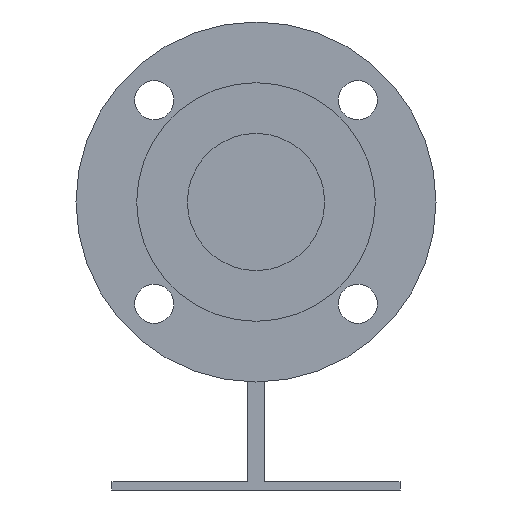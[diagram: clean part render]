
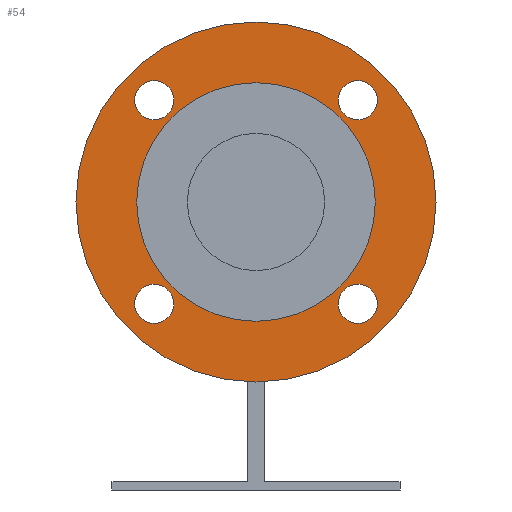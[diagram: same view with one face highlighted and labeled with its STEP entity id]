
A CAD part, left-side view. The second image highlights one B-rep face of the part: STEP entity #54.
In plain terms, the highlighted planar face has unit normal (-1, 0, 0).
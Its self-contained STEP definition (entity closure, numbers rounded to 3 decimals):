
#54=ADVANCED_FACE('',(#268,#269,#270,#271,#272,#273),#267,.T.);
#267=PLANE('',#1005);
#268=FACE_OUTER_BOUND('',#1006,.T.);
#269=FACE_BOUND('',#1007,.T.);
#270=FACE_BOUND('',#1008,.T.);
#271=FACE_BOUND('',#1009,.T.);
#272=FACE_BOUND('',#1010,.T.);
#273=FACE_BOUND('',#1011,.T.);
#1002=CARTESIAN_POINT('',(-389.,-161.554,-185.));
#1003=DIRECTION('',(-1.,0.,0.));
#1004=DIRECTION('',(0.,0.,1.));
#1005=AXIS2_PLACEMENT_3D('',#1002,#1003,#1004);
#1006=EDGE_LOOP('',(#1421,#1422));
#1007=EDGE_LOOP('',(#1423,#1424));
#1008=EDGE_LOOP('',(#1425,#1426));
#1009=EDGE_LOOP('',(#1427,#1428));
#1010=EDGE_LOOP('',(#1429,#1430));
#1011=EDGE_LOOP('',(#1431,#1432));
#1421=ORIENTED_EDGE('',*,*,#1798,.T.);
#1422=ORIENTED_EDGE('',*,*,#1799,.T.);
#1423=ORIENTED_EDGE('',*,*,#1800,.F.);
#1424=ORIENTED_EDGE('',*,*,#1801,.F.);
#1425=ORIENTED_EDGE('',*,*,#1802,.F.);
#1426=ORIENTED_EDGE('',*,*,#1803,.F.);
#1427=ORIENTED_EDGE('',*,*,#1804,.F.);
#1428=ORIENTED_EDGE('',*,*,#1805,.F.);
#1429=ORIENTED_EDGE('',*,*,#1806,.F.);
#1430=ORIENTED_EDGE('',*,*,#1807,.F.);
#1431=ORIENTED_EDGE('',*,*,#1808,.F.);
#1432=ORIENTED_EDGE('',*,*,#1809,.F.);
#1798=EDGE_CURVE('',#2392,#2393,#2394,.T.);
#1799=EDGE_CURVE('',#2393,#2392,#2400,.T.);
#1800=EDGE_CURVE('',#2406,#2407,#2408,.T.);
#1801=EDGE_CURVE('',#2407,#2406,#2414,.T.);
#1802=EDGE_CURVE('',#2420,#2421,#2422,.T.);
#1803=EDGE_CURVE('',#2421,#2420,#2428,.T.);
#1804=EDGE_CURVE('',#2434,#2435,#2436,.T.);
#1805=EDGE_CURVE('',#2435,#2434,#2442,.T.);
#1806=EDGE_CURVE('',#2448,#2449,#2450,.T.);
#1807=EDGE_CURVE('',#2449,#2448,#2456,.T.);
#1808=EDGE_CURVE('',#2462,#2463,#2464,.T.);
#1809=EDGE_CURVE('',#2463,#2462,#2470,.T.);
#2392=VERTEX_POINT('',#3510);
#2393=VERTEX_POINT('',#3511);
#2394=CIRCLE('',#3515,87.5);
#2400=CIRCLE('',#3519,87.5);
#2406=VERTEX_POINT('',#3520);
#2407=VERTEX_POINT('',#3521);
#2408=CIRCLE('',#3525,9.5);
#2414=CIRCLE('',#3529,9.5);
#2420=VERTEX_POINT('',#3530);
#2421=VERTEX_POINT('',#3531);
#2422=CIRCLE('',#3535,9.5);
#2428=CIRCLE('',#3539,9.5);
#2434=VERTEX_POINT('',#3540);
#2435=VERTEX_POINT('',#3541);
#2436=CIRCLE('',#3545,9.5);
#2442=CIRCLE('',#3549,9.5);
#2448=VERTEX_POINT('',#3550);
#2449=VERTEX_POINT('',#3551);
#2450=CIRCLE('',#3555,58.);
#2456=CIRCLE('',#3559,58.);
#2462=VERTEX_POINT('',#3560);
#2463=VERTEX_POINT('',#3561);
#2464=CIRCLE('',#3565,9.5);
#2470=CIRCLE('',#3569,9.5);
#3510=CARTESIAN_POINT('',(-389.,0.,87.5));
#3511=CARTESIAN_POINT('',(-389.,0.,-87.5));
#3512=CARTESIAN_POINT('',(-389.,0.,0.));
#3513=DIRECTION('',(-1.,0.,0.));
#3514=DIRECTION('',(0.,0.,1.));
#3515=AXIS2_PLACEMENT_3D('',#3512,#3513,#3514);
#3516=CARTESIAN_POINT('',(-389.,0.,0.));
#3517=DIRECTION('',(-1.,0.,0.));
#3518=DIRECTION('',(0.,0.,1.));
#3519=AXIS2_PLACEMENT_3D('',#3516,#3517,#3518);
#3520=CARTESIAN_POINT('',(-389.,-49.498,58.998));
#3521=CARTESIAN_POINT('',(-389.,-49.498,39.998));
#3522=CARTESIAN_POINT('',(-389.,-49.498,49.498));
#3523=DIRECTION('',(-1.,0.,0.));
#3524=DIRECTION('',(0.,0.,-1.));
#3525=AXIS2_PLACEMENT_3D('',#3522,#3523,#3524);
#3526=CARTESIAN_POINT('',(-389.,-49.498,49.498));
#3527=DIRECTION('',(-1.,0.,0.));
#3528=DIRECTION('',(0.,0.,-1.));
#3529=AXIS2_PLACEMENT_3D('',#3526,#3527,#3528);
#3530=CARTESIAN_POINT('',(-389.,49.497,58.998));
#3531=CARTESIAN_POINT('',(-389.,49.497,39.998));
#3532=CARTESIAN_POINT('',(-389.,49.497,49.498));
#3533=DIRECTION('',(-1.,0.,0.));
#3534=DIRECTION('',(0.,0.,-1.));
#3535=AXIS2_PLACEMENT_3D('',#3532,#3533,#3534);
#3536=CARTESIAN_POINT('',(-389.,49.497,49.498));
#3537=DIRECTION('',(-1.,0.,0.));
#3538=DIRECTION('',(0.,0.,-1.));
#3539=AXIS2_PLACEMENT_3D('',#3536,#3537,#3538);
#3540=CARTESIAN_POINT('',(-389.,-49.498,-39.998));
#3541=CARTESIAN_POINT('',(-389.,-49.498,-58.998));
#3542=CARTESIAN_POINT('',(-389.,-49.498,-49.498));
#3543=DIRECTION('',(-1.,0.,0.));
#3544=DIRECTION('',(0.,0.,-1.));
#3545=AXIS2_PLACEMENT_3D('',#3542,#3543,#3544);
#3546=CARTESIAN_POINT('',(-389.,-49.498,-49.498));
#3547=DIRECTION('',(-1.,0.,0.));
#3548=DIRECTION('',(0.,0.,-1.));
#3549=AXIS2_PLACEMENT_3D('',#3546,#3547,#3548);
#3550=CARTESIAN_POINT('',(-389.,0.,-58.));
#3551=CARTESIAN_POINT('',(-389.,0.,58.));
#3552=CARTESIAN_POINT('',(-389.,0.,0.));
#3553=DIRECTION('',(-1.,0.,0.));
#3554=DIRECTION('',(0.,0.,1.));
#3555=AXIS2_PLACEMENT_3D('',#3552,#3553,#3554);
#3556=CARTESIAN_POINT('',(-389.,0.,0.));
#3557=DIRECTION('',(-1.,0.,0.));
#3558=DIRECTION('',(0.,0.,1.));
#3559=AXIS2_PLACEMENT_3D('',#3556,#3557,#3558);
#3560=CARTESIAN_POINT('',(-389.,49.497,-39.998));
#3561=CARTESIAN_POINT('',(-389.,49.497,-58.998));
#3562=CARTESIAN_POINT('',(-389.,49.497,-49.498));
#3563=DIRECTION('',(-1.,0.,0.));
#3564=DIRECTION('',(0.,0.,-1.));
#3565=AXIS2_PLACEMENT_3D('',#3562,#3563,#3564);
#3566=CARTESIAN_POINT('',(-389.,49.497,-49.498));
#3567=DIRECTION('',(-1.,0.,0.));
#3568=DIRECTION('',(0.,0.,-1.));
#3569=AXIS2_PLACEMENT_3D('',#3566,#3567,#3568);
